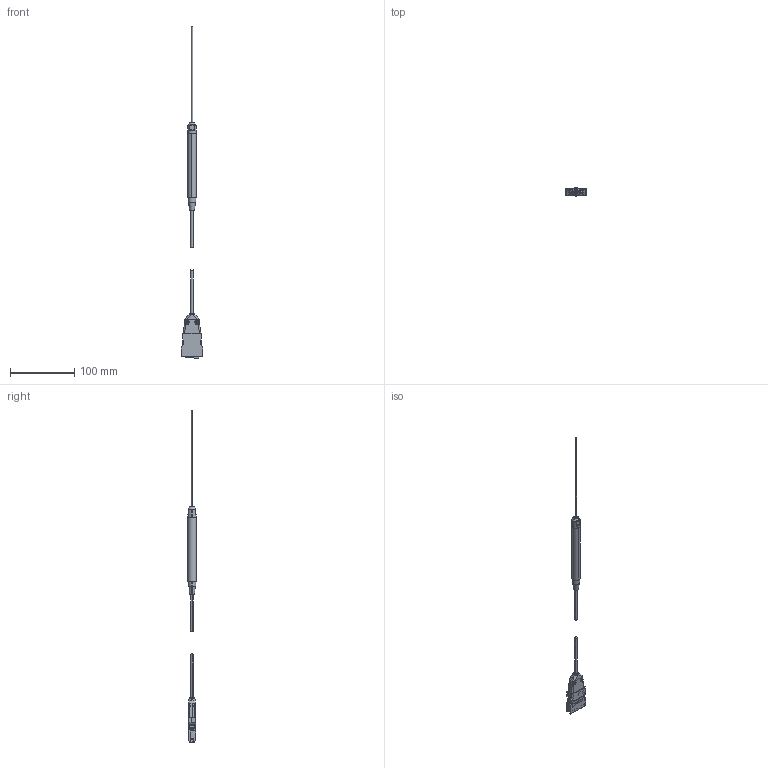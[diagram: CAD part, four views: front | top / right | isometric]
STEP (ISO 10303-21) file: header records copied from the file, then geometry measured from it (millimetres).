
FILE_DESCRIPTION (( 'STEP AP203' ), '1' );
FILE_NAME ('FP-2X-250-AS15d2.STEP', '2018-05-10T20:37:55', ( '' ), ( '' ), 'SwSTEP 2.0', 'SolidWorks 2017', '' );
FILE_SCHEMA (( 'CONFIG_CONTROL_DESIGN' ));
Length unit declared in the file: millimetre
Products named in the file (1): FP-2X-250-AS15d2
Bounding box: 33.27 x 13 x 518 mm (x, y, z)
Volume: 31274.3 mm3; surface area: 21150.2 mm2
Topology: 2 solids, 5 shells, 1444 faces, 3929 edges, 2508 vertices
Faces by surface type: plane 870, cylinder 320, bspline 90, cone 70, torus 70, sphere 24
Entity records: 51949 total; most frequent: CARTESIAN_POINT 16422, ORIENTED_EDGE 7818, DIRECTION 6888, EDGE_CURVE 3909, VECTOR 2592, LINE 2592, VERTEX_POINT 2508, AXIS2_PLACEMENT_3D 2148
